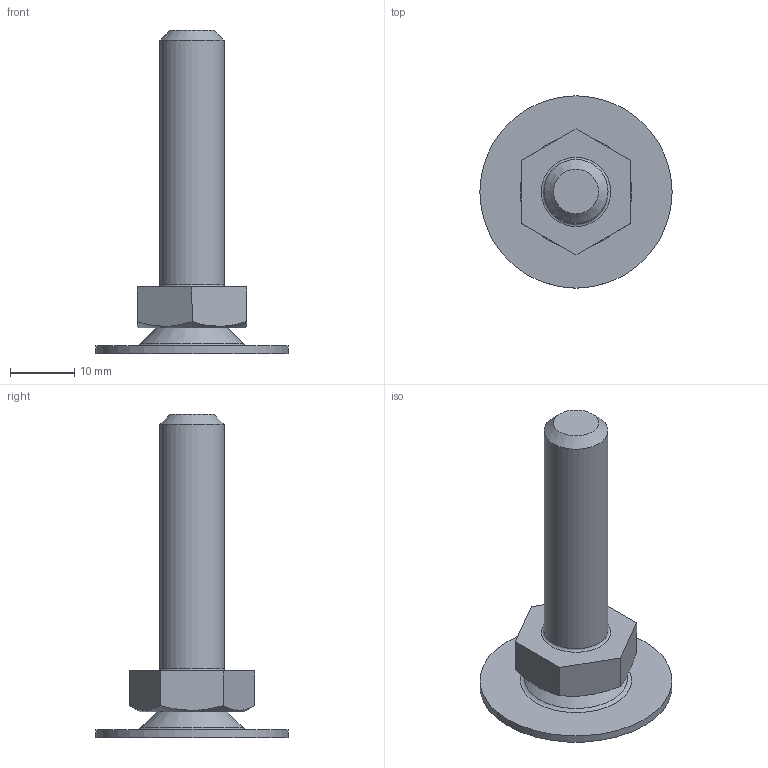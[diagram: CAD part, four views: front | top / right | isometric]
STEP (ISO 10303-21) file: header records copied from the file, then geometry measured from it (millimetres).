
FILE_DESCRIPTION(('STEP AP203'), '1');
FILE_NAME('A00050.1031016', '', ('UNSPECIFIED'), ('UNSPECIFIED'), 'C3D Converter', 'C3D Toolkit', '');
FILE_SCHEMA(('CONFIG_CONTROL_DESIGN'));
Length unit declared in the file: millimetre
Products named in the file (4): A00050.1031040; A00050.1030
Assembly tree (3 placements, depth 2):
  A00050.1031040
    A00050.1030
    (unnamed)
    (unnamed)
Bounding box: 30 x 30 x 50.38 mm (x, y, z)
Volume: 5597.8 mm3; surface area: 4126.8 mm2
Topology: 3 solids, 3 shells, 58 faces, 130 edges, 82 vertices
Faces by surface type: plane 28, torus 8, bspline 8, cone 7, cylinder 6, sphere 1
Full cylindrical faces by diameter (mm): 3.3 x1, 4 x1, 4.5 x1, 8 x1, 10 x1, 30 x1
Entity records: 2171 total; most frequent: CARTESIAN_POINT 784, DIRECTION 242, ORIENTED_EDGE 214, EDGE_CURVE 107, AXIS2_PLACEMENT_3D 95, EDGE_LOOP 86, VERTEX_POINT 81, ADVANCED_FACE 58
